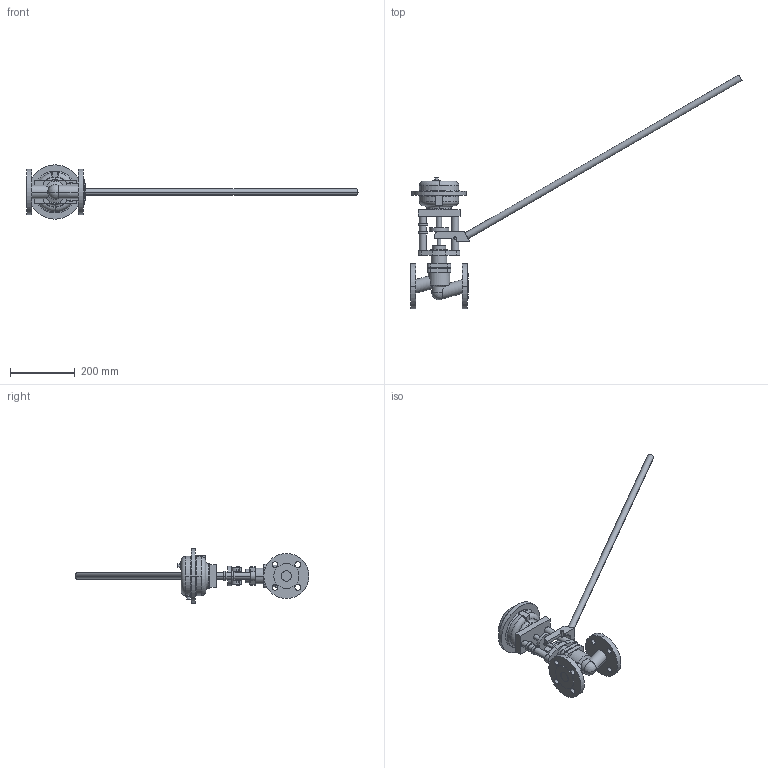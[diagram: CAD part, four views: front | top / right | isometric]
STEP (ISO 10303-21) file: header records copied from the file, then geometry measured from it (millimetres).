
FILE_DESCRIPTION(('OneSpaceDesigner STEP Export'),'2;1');
FILE_NAME('c000003569.stp','2009-11-30T 9:51:55',(''),(''),'OneSpace Designer STEP processor for AP214 (Solid Model)','OneSpace Modeling 15.50B 03-Nov-2007 (C) CoCreate Software GmbH','');
FILE_SCHEMA(('AUTOMOTIVE_DESIGN { 1 0 10303 214 1 1 1 1 }'));
Length unit declared in the file: millimetre
Products named in the file (1): 1
Bounding box: 1028.88 x 725.17 x 168 mm (x, y, z)
Volume: 2838536.3 mm3; surface area: 335189.6 mm2
Topology: 1 solids, 1 shells, 240 faces, 604 edges, 396 vertices
Faces by surface type: cylinder 112, plane 112, torus 12, cone 2, sphere 2
Entity records: 8855 total; most frequent: CARTESIAN_POINT 1616, ORIENTED_EDGE 1204, DIRECTION 977, EDGE_CURVE 602, VERTEX_POINT 396, AXIS2_PLACEMENT_3D 349, EDGE_LOOP 294, VECTOR 279
